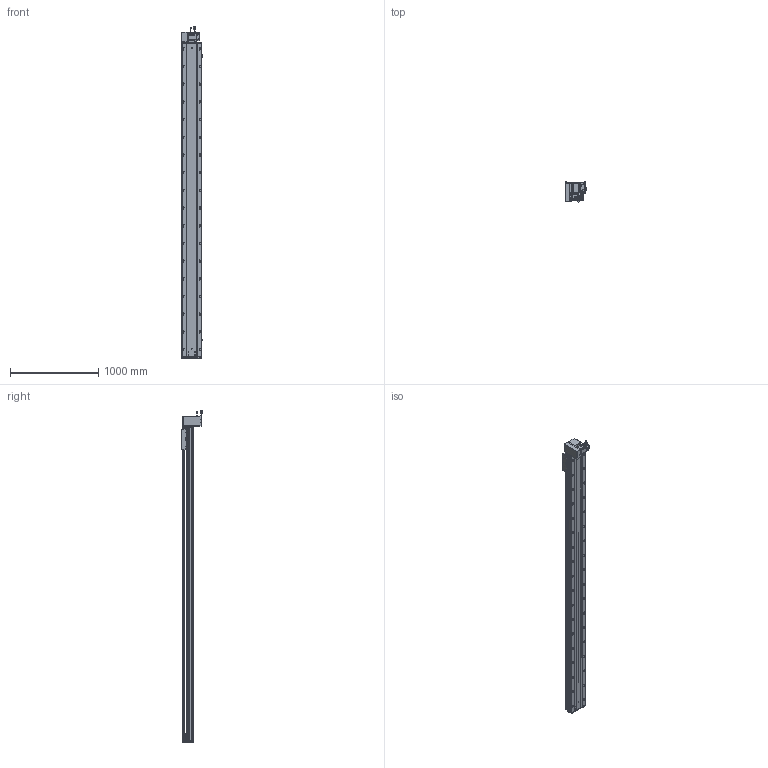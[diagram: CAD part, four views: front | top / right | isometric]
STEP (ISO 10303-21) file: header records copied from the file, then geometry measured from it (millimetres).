
FILE_DESCRIPTION (( 'STEP AP203' ), '1' );
FILE_NAME ('RY220-T-300-DL.SLDASM_3200.step', '2022-07-25T07:55:47', ( '' ), ( '' ), 'SwSTEP 2.0', 'SolidWorks 2016', '' );
FILE_SCHEMA (( 'CONFIG_CONTROL_DESIGN' ));
Length unit declared in the file: millimetre
Products named in the file (14): 滅袉蝶18-15; RY220-T-300-DL.SLDASM_3200; RY220-T-蛌殏萇儂假蚾啣(750W); RY220-同步轮副支撑座6304×2; RY220-俋离672覜茼んえ; RY220翋肮祭謫釱; 覜茼ん672; RY220-T菁釱-300_3200; 怢湛750W_ECMA-CX0807ES; RY220-T-300-奻裔啣_3200; RY220-T-湍謫欶(鍼踢); RY220圉猾敕々湍臏賑輸; RY220翋肮祭謫裔啣; 110A-T-肮祭謫釱傷裔
Assembly tree (18 placements, depth 2):
  RY220-T-300-DL.SLDASM_3200
    RY220-T菁釱-300_3200
    RY220翋肮祭謫釱
    覜茼ん672  x3
    RY220圉猾敕々湍臏賑輸
    RY220-T-300-奻裔啣_3200
    RY220-俋离672覜茼んえ
    滅袉蝶18-15  x3
    RY220翋肮祭謫裔啣  x2
    110A-T-肮祭謫釱傷裔
    怢湛750W_ECMA-CX0807ES
    RY220-T-湍謫欶(鍼踢)
    RY220-T-蛌殏萇儂假蚾啣(750W)
    RY220-同步轮副支撑座6304×2
Bounding box: 239.7 x 240.74 x 3753.27 mm (x, y, z)
Volume: 26499746.2 mm3; surface area: 8220495.6 mm2
Topology: 19 solids, 19 shells, 3066 faces, 8483 edges, 5302 vertices
Faces by surface type: cylinder 1522, plane 1069, cone 393, bspline 56, sphere 16, torus 10
Entity records: 102243 total; most frequent: CARTESIAN_POINT 28783, ORIENTED_EDGE 15162, DIRECTION 14688, EDGE_CURVE 7581, AXIS2_PLACEMENT_3D 5316, VERTEX_POINT 4926, VECTOR 4056, LINE 4056
